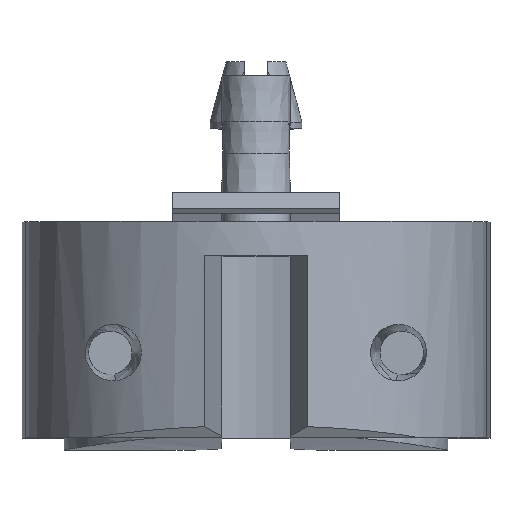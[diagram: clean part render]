
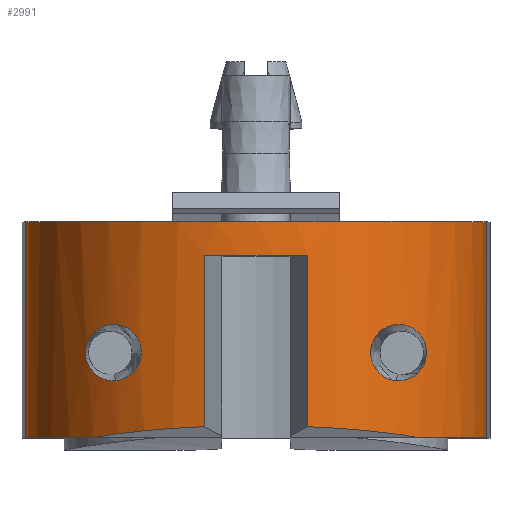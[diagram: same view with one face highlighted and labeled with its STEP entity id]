
A CAD part, top view. The second image highlights one B-rep face of the part: STEP entity #2991.
In plain terms, the highlighted cylindrical face has radius 9.5 mm (diameter 19 mm), a partial arc.
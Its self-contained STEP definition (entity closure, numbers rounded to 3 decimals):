
#216=CARTESIAN_POINT(' ',(-9.499,8.9,0.124));
#217=VERTEX_POINT(' ',#216);
#231=CARTESIAN_POINT(' ',(0.,8.9,0.));
#236=DIRECTION(' ',(0.,1.,0.));
#241=DIRECTION(' ',(-1.,0.,0.013));
#246=AXIS2_PLACEMENT_3D(' ',#231,#236,#241);
#251=CIRCLE('',#246,9.5);
#256=CARTESIAN_POINT(' ',(9.499,8.9,0.124));
#257=VERTEX_POINT(' ',#256);
#261=EDGE_CURVE(' ',#217,#257,#251,.T.);
#2071=CARTESIAN_POINT(' ',(9.499,0.,0.124));
#2072=VERTEX_POINT(' ',#2071);
#2096=CARTESIAN_POINT(' ',(9.499,8.9,0.124));
#2101=DIRECTION(' ',(0.,-1.,0.));
#2106=VECTOR(' ',#2101,1.);
#2111=LINE('',#2096,#2106);
#2116=EDGE_CURVE(' ',#257,#2072,#2111,.T.);
#2186=CARTESIAN_POINT(' ',(0.,8.9,0.));
#2191=DIRECTION(' ',(0.,-1.,0.));
#2196=DIRECTION(' ',(1.,0.,0.013));
#2201=AXIS2_PLACEMENT_3D(' ',#2186,#2191,#2196);
#2206=CYLINDRICAL_SURFACE(' ',#2201,9.5);
#2211=CARTESIAN_POINT(' ',(-0.032,-1.15,0.185));
#2216=DIRECTION(' ',(0.,-0.985,0.174));
#2221=DIRECTION(' ',(0.714,0.122,0.69));
#2226=AXIS2_PLACEMENT_3D(' ',#2211,#2216,#2221);
#2231=CIRCLE('',#2226,9.463);
#2236=CARTESIAN_POINT(' ',(6.725,0.,6.71));
#2237=VERTEX_POINT(' ',#2236);
#2241=CARTESIAN_POINT(' ',(2.112,0.45,9.262));
#2242=VERTEX_POINT(' ',#2241);
#2246=EDGE_CURVE(' ',#2237,#2242,#2231,.T.);
#2251=ORIENTED_EDGE(' ',*,*,#2246,.F.);
#2256=CARTESIAN_POINT(' ',(0.,0.,0.));
#2261=DIRECTION(' ',(0.,1.,0.));
#2266=DIRECTION(' ',(0.708,0.,0.706));
#2271=AXIS2_PLACEMENT_3D(' ',#2256,#2261,#2266);
#2276=CIRCLE('',#2271,9.5);
#2281=EDGE_CURVE(' ',#2237,#2072,#2276,.T.);
#2286=ORIENTED_EDGE(' ',*,*,#2281,.T.);
#2291=ORIENTED_EDGE(' ',*,*,#2116,.F.);
#2296=ORIENTED_EDGE(' ',*,*,#261,.F.);
#2301=CARTESIAN_POINT(' ',(-9.499,8.9,0.124));
#2306=DIRECTION(' ',(0.,-1.,0.));
#2311=VECTOR(' ',#2306,1.);
#2316=LINE('',#2301,#2311);
#2321=CARTESIAN_POINT(' ',(-9.499,0.,0.124));
#2322=VERTEX_POINT(' ',#2321);
#2326=EDGE_CURVE(' ',#217,#2322,#2316,.T.);
#2331=ORIENTED_EDGE(' ',*,*,#2326,.T.);
#2336=CARTESIAN_POINT(' ',(0.,0.,0.));
#2341=DIRECTION(' ',(-0.,1.,0.));
#2346=DIRECTION(' ',(-1.,0.,0.013));
#2351=AXIS2_PLACEMENT_3D(' ',#2336,#2341,#2346);
#2356=CIRCLE('',#2351,9.5);
#2361=CARTESIAN_POINT(' ',(-6.725,0.,6.71));
#2362=VERTEX_POINT(' ',#2361);
#2366=EDGE_CURVE(' ',#2322,#2362,#2356,.T.);
#2371=ORIENTED_EDGE(' ',*,*,#2366,.T.);
#2376=CARTESIAN_POINT(' ',(0.03,-1.15,0.189));
#2381=DIRECTION(' ',(0.,-0.985,0.174));
#2386=DIRECTION(' ',(-0.226,0.169,0.959));
#2391=AXIS2_PLACEMENT_3D(' ',#2376,#2381,#2386);
#2396=CIRCLE('',#2391,9.459);
#2401=CARTESIAN_POINT(' ',(-2.112,0.45,9.262));
#2402=VERTEX_POINT(' ',#2401);
#2406=EDGE_CURVE(' ',#2402,#2362,#2396,.T.);
#2411=ORIENTED_EDGE(' ',*,*,#2406,.F.);
#2416=CARTESIAN_POINT(' ',(-2.112,7.5,9.262));
#2421=DIRECTION(' ',(0.,-1.,0.));
#2426=VECTOR(' ',#2421,1.);
#2431=LINE('',#2416,#2426);
#2436=CARTESIAN_POINT(' ',(-2.112,7.5,9.262));
#2437=VERTEX_POINT(' ',#2436);
#2441=EDGE_CURVE(' ',#2437,#2402,#2431,.T.);
#2446=ORIENTED_EDGE(' ',*,*,#2441,.F.);
#2451=CARTESIAN_POINT(' ',(0.,7.5,0.));
#2456=DIRECTION(' ',(0.,-1.,-0.));
#2461=DIRECTION(' ',(0.222,0.,0.975));
#2466=AXIS2_PLACEMENT_3D(' ',#2451,#2456,#2461);
#2471=CIRCLE('',#2466,9.5);
#2476=CARTESIAN_POINT(' ',(2.112,7.5,9.262));
#2477=VERTEX_POINT(' ',#2476);
#2481=EDGE_CURVE(' ',#2477,#2437,#2471,.T.);
#2486=ORIENTED_EDGE(' ',*,*,#2481,.F.);
#2491=CARTESIAN_POINT(' ',(2.112,7.5,9.262));
#2496=DIRECTION(' ',(0.,-1.,0.));
#2501=VECTOR(' ',#2496,1.);
#2506=LINE('',#2491,#2501);
#2511=EDGE_CURVE(' ',#2477,#2242,#2506,.T.);
#2516=ORIENTED_EDGE(' ',*,*,#2511,.T.);
#2521=EDGE_LOOP(' ',(#2251,#2286,#2291,#2296,#2331,#2371,#2411,#2446,#2486,#2516));
#2526=FACE_OUTER_BOUND(' ',#2521,.T.);
#2531=CARTESIAN_POINT(' ',(6.221,4.609,7.18));
#2536=CARTESIAN_POINT(' ',(5.775,4.753,7.566));
#2541=CARTESIAN_POINT(' ',(5.232,4.61,7.938));
#2546=CARTESIAN_POINT(' ',(4.888,4.111,8.146));
#2551=CARTESIAN_POINT(' ',(4.855,4.053,8.166));
#2556=CARTESIAN_POINT(' ',(4.827,3.992,8.182));
#2561=B_SPLINE_CURVE_WITH_KNOTS('',3,(#2531,#2536,#2541,#2546,#2551,#2556),.UNSPECIFIED.,.F.,.U.,(4,2,4),(0.,0.892,1.),.UNSPECIFIED.);
#2566=CARTESIAN_POINT(' ',(6.221,4.609,7.18));
#2567=VERTEX_POINT(' ',#2566);
#2571=CARTESIAN_POINT(' ',(4.827,3.992,8.182));
#2572=VERTEX_POINT(' ',#2571);
#2576=EDGE_CURVE(' ',#2567,#2572,#2561,.T.);
#2581=ORIENTED_EDGE(' ',*,*,#2576,.F.);
#2586=CARTESIAN_POINT(' ',(6.953,3.105,6.473));
#2591=CARTESIAN_POINT(' ',(7.031,3.323,6.39));
#2596=CARTESIAN_POINT(' ',(7.043,3.588,6.377));
#2601=CARTESIAN_POINT(' ',(6.864,4.221,6.57));
#2606=CARTESIAN_POINT(' ',(6.583,4.48,6.863));
#2611=CARTESIAN_POINT(' ',(6.245,4.601,7.159));
#2616=CARTESIAN_POINT(' ',(6.233,4.605,7.169));
#2621=CARTESIAN_POINT(' ',(6.221,4.609,7.18));
#2626=B_SPLINE_CURVE_WITH_KNOTS('',3,(#2586,#2591,#2596,#2601,#2606,#2611,#2616,#2621),.UNSPECIFIED.,.F.,.U.,(4,2,2,4),(0.,0.358,0.977,1.),.UNSPECIFIED.);
#2631=CARTESIAN_POINT(' ',(6.953,3.105,6.473));
#2632=VERTEX_POINT(' ',#2631);
#2636=EDGE_CURVE(' ',#2632,#2567,#2626,.T.);
#2641=ORIENTED_EDGE(' ',*,*,#2636,.F.);
#2646=CARTESIAN_POINT(' ',(5.769,2.34,7.548));
#2651=CARTESIAN_POINT(' ',(6.132,2.307,7.27));
#2656=CARTESIAN_POINT(' ',(6.49,2.444,6.947));
#2661=CARTESIAN_POINT(' ',(6.828,2.84,6.607));
#2666=CARTESIAN_POINT(' ',(6.902,2.962,6.528));
#2671=CARTESIAN_POINT(' ',(6.953,3.105,6.473));
#2676=B_SPLINE_CURVE_WITH_KNOTS('',3,(#2646,#2651,#2656,#2661,#2666,#2671),.UNSPECIFIED.,.F.,.U.,(4,2,4),(0.,0.743,1.),.UNSPECIFIED.);
#2681=CARTESIAN_POINT(' ',(5.769,2.34,7.548));
#2682=VERTEX_POINT(' ',#2681);
#2686=EDGE_CURVE(' ',#2682,#2632,#2676,.T.);
#2691=ORIENTED_EDGE(' ',*,*,#2686,.F.);
#2696=CARTESIAN_POINT(' ',(4.827,3.992,8.182));
#2701=CARTESIAN_POINT(' ',(4.709,3.736,8.252));
#2706=CARTESIAN_POINT(' ',(4.688,3.422,8.263));
#2711=CARTESIAN_POINT(' ',(4.894,2.759,8.143));
#2716=CARTESIAN_POINT(' ',(5.209,2.487,7.954));
#2721=CARTESIAN_POINT(' ',(5.61,2.363,7.667));
#2726=CARTESIAN_POINT(' ',(5.69,2.347,7.608));
#2731=CARTESIAN_POINT(' ',(5.769,2.34,7.548));
#2736=B_SPLINE_CURVE_WITH_KNOTS('',3,(#2696,#2701,#2706,#2711,#2716,#2721,#2726,#2731),.UNSPECIFIED.,.F.,.U.,(4,2,2,4),(0.,0.358,0.874,1.),.UNSPECIFIED.);
#2741=EDGE_CURVE(' ',#2572,#2682,#2736,.T.);
#2746=ORIENTED_EDGE(' ',*,*,#2741,.F.);
#2751=EDGE_LOOP(' ',(#2581,#2641,#2691,#2746));
#2756=FACE_BOUND(' ',#2751,.T.);
#2761=CARTESIAN_POINT(' ',(-6.953,3.105,6.473));
#2766=CARTESIAN_POINT(' ',(-6.831,2.762,6.605));
#2771=CARTESIAN_POINT(' ',(-6.589,2.539,6.854));
#2776=CARTESIAN_POINT(' ',(-6.134,2.351,7.258));
#2781=CARTESIAN_POINT(' ',(-5.952,2.324,7.408));
#2786=CARTESIAN_POINT(' ',(-5.769,2.34,7.548));
#2791=B_SPLINE_CURVE_WITH_KNOTS('',3,(#2761,#2766,#2771,#2776,#2781,#2786),.UNSPECIFIED.,.F.,.U.,(4,2,4),(0.,0.619,1.),.UNSPECIFIED.);
#2796=CARTESIAN_POINT(' ',(-6.953,3.105,6.473));
#2797=VERTEX_POINT(' ',#2796);
#2801=CARTESIAN_POINT(' ',(-5.769,2.34,7.548));
#2802=VERTEX_POINT(' ',#2801);
#2806=EDGE_CURVE(' ',#2797,#2802,#2791,.T.);
#2811=ORIENTED_EDGE(' ',*,*,#2806,.F.);
#2816=CARTESIAN_POINT(' ',(-6.221,4.609,7.18));
#2821=CARTESIAN_POINT(' ',(-6.499,4.519,6.939));
#2826=CARTESIAN_POINT(' ',(-6.74,4.33,6.699));
#2831=CARTESIAN_POINT(' ',(-6.994,3.841,6.431));
#2836=CARTESIAN_POINT(' ',(-7.043,3.582,6.376));
#2841=CARTESIAN_POINT(' ',(-7.,3.261,6.423));
#2846=CARTESIAN_POINT(' ',(-6.98,3.181,6.444));
#2851=CARTESIAN_POINT(' ',(-6.953,3.105,6.473));
#2856=B_SPLINE_CURVE_WITH_KNOTS('',3,(#2816,#2821,#2826,#2831,#2836,#2841,#2846,#2851),.UNSPECIFIED.,.F.,.U.,(4,2,2,4),(0.,0.516,0.874,1.),.UNSPECIFIED.);
#2861=CARTESIAN_POINT(' ',(-6.221,4.609,7.18));
#2862=VERTEX_POINT(' ',#2861);
#2866=EDGE_CURVE(' ',#2862,#2797,#2856,.T.);
#2871=ORIENTED_EDGE(' ',*,*,#2866,.F.);
#2876=CARTESIAN_POINT(' ',(-4.813,3.96,8.191));
#2881=CARTESIAN_POINT(' ',(-4.971,4.331,8.098));
#2886=CARTESIAN_POINT(' ',(-5.303,4.568,7.893));
#2891=CARTESIAN_POINT(' ',(-5.83,4.682,7.505));
#2896=CARTESIAN_POINT(' ',(-6.031,4.671,7.345));
#2901=CARTESIAN_POINT(' ',(-6.221,4.609,7.18));
#2906=B_SPLINE_CURVE_WITH_KNOTS('',3,(#2876,#2881,#2886,#2891,#2896,#2901),.UNSPECIFIED.,.F.,.U.,(4,2,4),(0.,0.619,1.),.UNSPECIFIED.);
#2911=CARTESIAN_POINT(' ',(-4.813,3.96,8.191));
#2912=VERTEX_POINT(' ',#2911);
#2916=EDGE_CURVE(' ',#2912,#2862,#2906,.T.);
#2921=ORIENTED_EDGE(' ',*,*,#2916,.F.);
#2926=CARTESIAN_POINT(' ',(-5.769,2.34,7.548));
#2931=CARTESIAN_POINT(' ',(-5.395,2.374,7.834));
#2936=CARTESIAN_POINT(' ',(-4.977,2.621,8.094));
#2941=CARTESIAN_POINT(' ',(-4.699,3.328,8.257));
#2946=CARTESIAN_POINT(' ',(-4.693,3.642,8.26));
#2951=CARTESIAN_POINT(' ',(-4.799,3.927,8.199));
#2956=CARTESIAN_POINT(' ',(-4.806,3.943,8.195));
#2961=CARTESIAN_POINT(' ',(-4.813,3.96,8.191));
#2966=B_SPLINE_CURVE_WITH_KNOTS('',3,(#2926,#2931,#2936,#2941,#2946,#2951,#2956,#2961),.UNSPECIFIED.,.F.,.U.,(4,2,2,4),(0.,0.619,0.977,1.),.UNSPECIFIED.);
#2971=EDGE_CURVE(' ',#2802,#2912,#2966,.T.);
#2976=ORIENTED_EDGE(' ',*,*,#2971,.F.);
#2981=EDGE_LOOP(' ',(#2811,#2871,#2921,#2976));
#2986=FACE_BOUND(' ',#2981,.T.);
#2991=ADVANCED_FACE('',(#2526,#2756,#2986),#2206,.T.);
